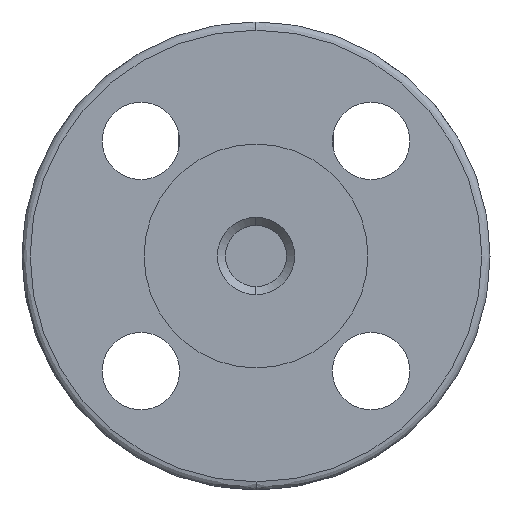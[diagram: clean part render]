
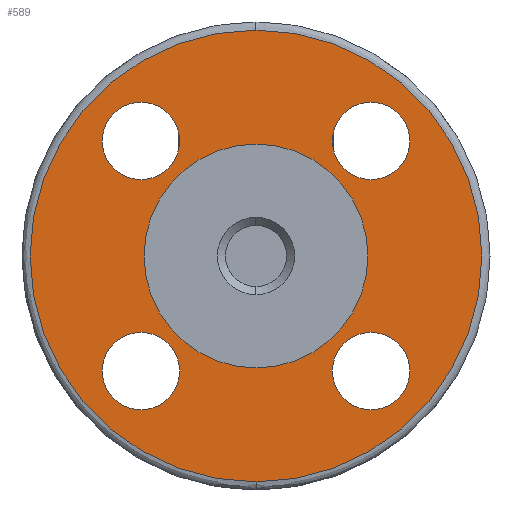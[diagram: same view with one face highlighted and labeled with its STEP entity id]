
A CAD part, left-side view. The second image highlights one B-rep face of the part: STEP entity #589.
In plain terms, the highlighted planar face has unit normal (-1, 0, 0).
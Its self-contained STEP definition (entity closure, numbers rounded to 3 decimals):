
#589=ADVANCED_FACE('',(#2857,#2858,#2859,#2860,#2861,#2862),#2856,.F.);
#2856=PLANE('',#6180);
#2857=FACE_OUTER_BOUND('',#6181,.T.);
#2858=FACE_BOUND('',#6182,.T.);
#2859=FACE_BOUND('',#6183,.T.);
#2860=FACE_BOUND('',#6184,.T.);
#2861=FACE_BOUND('',#6185,.T.);
#2862=FACE_BOUND('',#6186,.T.);
#6177=CARTESIAN_POINT('',(-68.5,-106.129,65.5));
#6178=DIRECTION('',(1.,0.,0.));
#6179=DIRECTION('',(0.,0.,-1.));
#6180=AXIS2_PLACEMENT_3D('',#6177,#6178,#6179);
#6181=EDGE_LOOP('',(#7835,#7836));
#6182=EDGE_LOOP('',(#7837,#7838));
#6183=EDGE_LOOP('',(#7839,#7840));
#6184=EDGE_LOOP('',(#7841,#7842));
#6185=EDGE_LOOP('',(#7843,#7844));
#6186=EDGE_LOOP('',(#7845,#7846));
#7835=ORIENTED_EDGE('',*,*,#8608,.T.);
#7836=ORIENTED_EDGE('',*,*,#8609,.T.);
#7837=ORIENTED_EDGE('',*,*,#8610,.F.);
#7838=ORIENTED_EDGE('',*,*,#8611,.F.);
#7839=ORIENTED_EDGE('',*,*,#8612,.F.);
#7840=ORIENTED_EDGE('',*,*,#8613,.F.);
#7841=ORIENTED_EDGE('',*,*,#8614,.F.);
#7842=ORIENTED_EDGE('',*,*,#8615,.F.);
#7843=ORIENTED_EDGE('',*,*,#8616,.F.);
#7844=ORIENTED_EDGE('',*,*,#8617,.F.);
#7845=ORIENTED_EDGE('',*,*,#8618,.F.);
#7846=ORIENTED_EDGE('',*,*,#8619,.F.);
#8608=EDGE_CURVE('',#11960,#11961,#11962,.T.);
#8609=EDGE_CURVE('',#11961,#11960,#11968,.T.);
#8610=EDGE_CURVE('',#11974,#11975,#11976,.T.);
#8611=EDGE_CURVE('',#11975,#11974,#11982,.T.);
#8612=EDGE_CURVE('',#11988,#11989,#11990,.T.);
#8613=EDGE_CURVE('',#11989,#11988,#11996,.T.);
#8614=EDGE_CURVE('',#12002,#12003,#12004,.T.);
#8615=EDGE_CURVE('',#12003,#12002,#12010,.T.);
#8616=EDGE_CURVE('',#12016,#12017,#12018,.T.);
#8617=EDGE_CURVE('',#12017,#12016,#12024,.T.);
#8618=EDGE_CURVE('',#12030,#12031,#12032,.T.);
#8619=EDGE_CURVE('',#12031,#12030,#12038,.T.);
#11960=VERTEX_POINT('',#15638);
#11961=VERTEX_POINT('',#15639);
#11962=CIRCLE('',#15643,55.5);
#11968=CIRCLE('',#15647,55.5);
#11974=VERTEX_POINT('',#15648);
#11975=VERTEX_POINT('',#15649);
#11976=CIRCLE('',#15653,9.5);
#11982=CIRCLE('',#15657,9.5);
#11988=VERTEX_POINT('',#15658);
#11989=VERTEX_POINT('',#15659);
#11990=CIRCLE('',#15663,27.5);
#11996=CIRCLE('',#15667,27.5);
#12002=VERTEX_POINT('',#15668);
#12003=VERTEX_POINT('',#15669);
#12004=CIRCLE('',#15673,9.5);
#12010=CIRCLE('',#15677,9.5);
#12016=VERTEX_POINT('',#15678);
#12017=VERTEX_POINT('',#15679);
#12018=CIRCLE('',#15683,9.5);
#12024=CIRCLE('',#15687,9.5);
#12030=VERTEX_POINT('',#15688);
#12031=VERTEX_POINT('',#15689);
#12032=CIRCLE('',#15693,9.5);
#12038=CIRCLE('',#15697,9.5);
#15638=CARTESIAN_POINT('',(-68.5,0.,55.5));
#15639=CARTESIAN_POINT('',(-68.5,0.,-55.5));
#15640=CARTESIAN_POINT('',(-68.5,0.,0.));
#15641=DIRECTION('',(-1.,0.,0.));
#15642=DIRECTION('',(0.,0.,1.));
#15643=AXIS2_PLACEMENT_3D('',#15640,#15641,#15642);
#15644=CARTESIAN_POINT('',(-68.5,0.,0.));
#15645=DIRECTION('',(-1.,0.,0.));
#15646=DIRECTION('',(0.,0.,1.));
#15647=AXIS2_PLACEMENT_3D('',#15644,#15645,#15646);
#15648=CARTESIAN_POINT('',(-68.5,-28.284,-18.784));
#15649=CARTESIAN_POINT('',(-68.5,-28.284,-37.784));
#15650=CARTESIAN_POINT('',(-68.5,-28.284,-28.284));
#15651=DIRECTION('',(-1.,0.,0.));
#15652=DIRECTION('',(0.,0.,-1.));
#15653=AXIS2_PLACEMENT_3D('',#15650,#15651,#15652);
#15654=CARTESIAN_POINT('',(-68.5,-28.284,-28.284));
#15655=DIRECTION('',(-1.,0.,0.));
#15656=DIRECTION('',(0.,0.,-1.));
#15657=AXIS2_PLACEMENT_3D('',#15654,#15655,#15656);
#15658=CARTESIAN_POINT('',(-68.5,0.,-27.5));
#15659=CARTESIAN_POINT('',(-68.5,0.,27.5));
#15660=CARTESIAN_POINT('',(-68.5,0.,0.));
#15661=DIRECTION('',(-1.,0.,0.));
#15662=DIRECTION('',(0.,0.,1.));
#15663=AXIS2_PLACEMENT_3D('',#15660,#15661,#15662);
#15664=CARTESIAN_POINT('',(-68.5,0.,0.));
#15665=DIRECTION('',(-1.,0.,0.));
#15666=DIRECTION('',(0.,0.,1.));
#15667=AXIS2_PLACEMENT_3D('',#15664,#15665,#15666);
#15668=CARTESIAN_POINT('',(-68.5,-28.284,37.784));
#15669=CARTESIAN_POINT('',(-68.5,-28.284,18.784));
#15670=CARTESIAN_POINT('',(-68.5,-28.284,28.284));
#15671=DIRECTION('',(-1.,0.,0.));
#15672=DIRECTION('',(0.,0.,-1.));
#15673=AXIS2_PLACEMENT_3D('',#15670,#15671,#15672);
#15674=CARTESIAN_POINT('',(-68.5,-28.284,28.284));
#15675=DIRECTION('',(-1.,0.,0.));
#15676=DIRECTION('',(0.,0.,-1.));
#15677=AXIS2_PLACEMENT_3D('',#15674,#15675,#15676);
#15678=CARTESIAN_POINT('',(-68.5,28.284,-18.784));
#15679=CARTESIAN_POINT('',(-68.5,28.284,-37.784));
#15680=CARTESIAN_POINT('',(-68.5,28.284,-28.284));
#15681=DIRECTION('',(-1.,0.,0.));
#15682=DIRECTION('',(0.,0.,-1.));
#15683=AXIS2_PLACEMENT_3D('',#15680,#15681,#15682);
#15684=CARTESIAN_POINT('',(-68.5,28.284,-28.284));
#15685=DIRECTION('',(-1.,0.,0.));
#15686=DIRECTION('',(0.,0.,-1.));
#15687=AXIS2_PLACEMENT_3D('',#15684,#15685,#15686);
#15688=CARTESIAN_POINT('',(-68.5,28.284,37.784));
#15689=CARTESIAN_POINT('',(-68.5,28.284,18.784));
#15690=CARTESIAN_POINT('',(-68.5,28.284,28.284));
#15691=DIRECTION('',(-1.,0.,0.));
#15692=DIRECTION('',(0.,0.,-1.));
#15693=AXIS2_PLACEMENT_3D('',#15690,#15691,#15692);
#15694=CARTESIAN_POINT('',(-68.5,28.284,28.284));
#15695=DIRECTION('',(-1.,0.,0.));
#15696=DIRECTION('',(0.,0.,-1.));
#15697=AXIS2_PLACEMENT_3D('',#15694,#15695,#15696);
